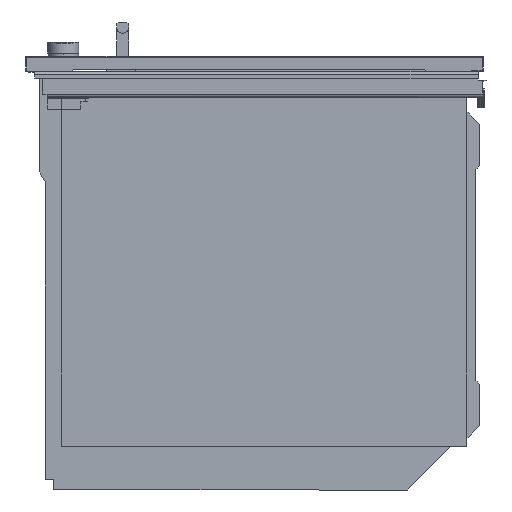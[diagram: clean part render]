
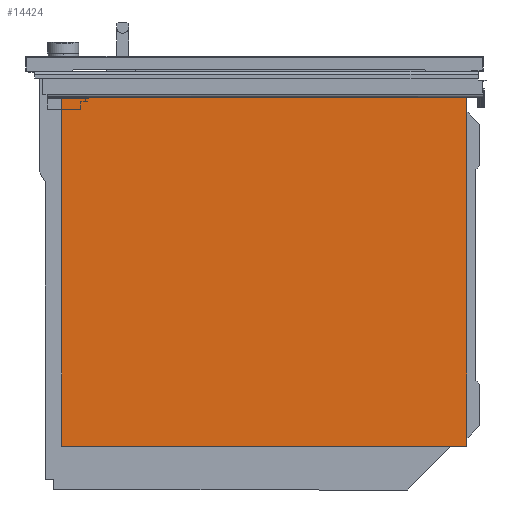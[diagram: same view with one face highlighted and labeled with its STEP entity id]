
A CAD part, left-side view. The second image highlights one B-rep face of the part: STEP entity #14424.
In plain terms, the highlighted planar face has unit normal (-1, 0, 0).
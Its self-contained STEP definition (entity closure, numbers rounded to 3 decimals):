
#384 = VECTOR ( 'NONE', #10599, 1000. ) ;
#1182 = VERTEX_POINT ( 'NONE', #15534 ) ;
#1871 = DIRECTION ( 'NONE',  ( 0., 0., -1. ) ) ;
#2202 = EDGE_CURVE ( 'NONE', #5193, #9031, #8000, .T. ) ;
#2702 = ORIENTED_EDGE ( 'NONE', *, *, #14465, .F. ) ;
#3324 = EDGE_CURVE ( 'NONE', #4414, #1182, #7967, .T. ) ;
#3411 = LINE ( 'NONE', #14987, #18095 ) ;
#3494 = ORIENTED_EDGE ( 'NONE', *, *, #3324, .F. ) ;
#3672 = CARTESIAN_POINT ( 'NONE',  ( -274.55, 0., 0. ) ) ;
#4414 = VERTEX_POINT ( 'NONE', #10201 ) ;
#4854 = CARTESIAN_POINT ( 'NONE',  ( -274.55, 19.793, 569.743 ) ) ;
#4892 = AXIS2_PLACEMENT_3D ( 'NONE', #3672, #17906, #9378 ) ;
#5028 = CARTESIAN_POINT ( 'NONE',  ( -274.55, 20.293, 105.655 ) ) ;
#5193 = VERTEX_POINT ( 'NONE', #15353 ) ;
#6627 = EDGE_LOOP ( 'NONE', ( #16763, #2702, #3494, #7419 ) ) ;
#7419 = ORIENTED_EDGE ( 'NONE', *, *, #15694, .F. ) ;
#7958 = PLANE ( 'NONE',  #4892 ) ;
#7967 = LINE ( 'NONE', #5028, #384 ) ;
#8000 = LINE ( 'NONE', #14242, #15510 ) ;
#9031 = VERTEX_POINT ( 'NONE', #4854 ) ;
#9378 = DIRECTION ( 'NONE',  ( 0., 0., -1. ) ) ;
#9507 = DIRECTION ( 'NONE',  ( 0., 0., 1. ) ) ;
#10201 = CARTESIAN_POINT ( 'NONE',  ( -274.55, 19.793, 105.655 ) ) ;
#10599 = DIRECTION ( 'NONE',  ( 0., 1., 0. ) ) ;
#14242 = CARTESIAN_POINT ( 'NONE',  ( -274.55, 547.843, 569.743 ) ) ;
#14424 = ADVANCED_FACE ( 'NONE', ( #15605 ), #7958, .F. ) ;
#14465 = EDGE_CURVE ( 'NONE', #1182, #5193, #3411, .T. ) ;
#14987 = CARTESIAN_POINT ( 'NONE',  ( -274.55, 547.843, 569.743 ) ) ;
#15335 = DIRECTION ( 'NONE',  ( 0., -1., 0. ) ) ;
#15353 = CARTESIAN_POINT ( 'NONE',  ( -274.55, 547.843, 569.743 ) ) ;
#15510 = VECTOR ( 'NONE', #15335, 1000. ) ;
#15534 = CARTESIAN_POINT ( 'NONE',  ( -274.55, 547.843, 105.655 ) ) ;
#15605 = FACE_OUTER_BOUND ( 'NONE', #6627, .T. ) ;
#15694 = EDGE_CURVE ( 'NONE', #9031, #4414, #16475, .T. ) ;
#16475 = LINE ( 'NONE', #17492, #17395 ) ;
#16763 = ORIENTED_EDGE ( 'NONE', *, *, #2202, .F. ) ;
#17395 = VECTOR ( 'NONE', #1871, 1000. ) ;
#17492 = CARTESIAN_POINT ( 'NONE',  ( -274.55, 19.793, 569.743 ) ) ;
#17906 = DIRECTION ( 'NONE',  ( 1., 0., 0. ) ) ;
#18095 = VECTOR ( 'NONE', #9507, 1000. ) ;
